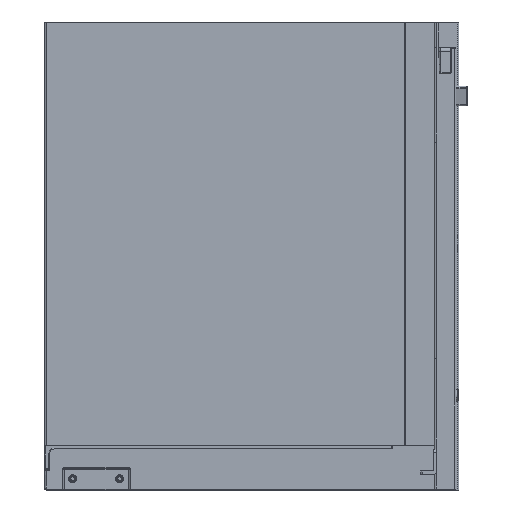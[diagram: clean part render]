
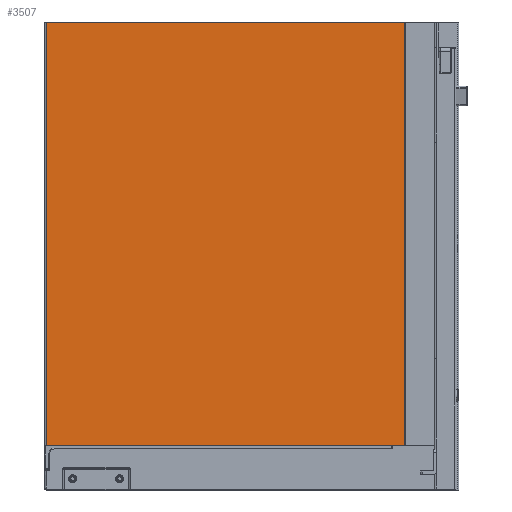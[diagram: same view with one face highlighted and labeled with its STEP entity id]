
A CAD part, left-side view. The second image highlights one B-rep face of the part: STEP entity #3507.
In plain terms, the highlighted planar face has unit normal (-1, 0, 0).
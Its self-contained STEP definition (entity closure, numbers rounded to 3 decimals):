
#88 = VERTEX_POINT ( 'NONE', #1956 ) ;
#271 = LINE ( 'NONE', #7718, #687 ) ;
#646 = VECTOR ( 'NONE', #7540, 1000. ) ;
#687 = VECTOR ( 'NONE', #7647, 1000. ) ;
#927 = VECTOR ( 'NONE', #4239, 1000. ) ;
#1225 = LINE ( 'NONE', #8253, #927 ) ;
#1454 = VERTEX_POINT ( 'NONE', #3242 ) ;
#1839 = LINE ( 'NONE', #8329, #646 ) ;
#1956 = CARTESIAN_POINT ( 'NONE',  ( 5.7, 205.8, 0. ) ) ;
#2207 = EDGE_LOOP ( 'NONE', ( #2776, #4439, #3569, #10670 ) ) ;
#2776 = ORIENTED_EDGE ( 'NONE', *, *, #5045, .T. ) ;
#2868 = VECTOR ( 'NONE', #10286, 1000. ) ;
#3242 = CARTESIAN_POINT ( 'NONE',  ( 5.7, 205.8, -243.5 ) ) ;
#3507 = ADVANCED_FACE ( 'NONE', ( #4442 ), #9278, .T. ) ;
#3569 = ORIENTED_EDGE ( 'NONE', *, *, #5064, .F. ) ;
#4239 = DIRECTION ( 'NONE',  ( 0., 0., 1. ) ) ;
#4439 = ORIENTED_EDGE ( 'NONE', *, *, #5034, .F. ) ;
#4442 = FACE_OUTER_BOUND ( 'NONE', #2207, .T. ) ;
#5034 = EDGE_CURVE ( 'NONE', #1454, #88, #1225, .T. ) ;
#5045 = EDGE_CURVE ( 'NONE', #10297, #88, #11578, .T. ) ;
#5064 = EDGE_CURVE ( 'NONE', #7852, #1454, #271, .T. ) ;
#5065 = EDGE_CURVE ( 'NONE', #7852, #10297, #1839, .T. ) ;
#6456 = AXIS2_PLACEMENT_3D ( 'NONE', #9165, #9365, #9367 ) ;
#7540 = DIRECTION ( 'NONE',  ( 0., 0., 1. ) ) ;
#7647 = DIRECTION ( 'NONE',  ( 0., 1., 0. ) ) ;
#7718 = CARTESIAN_POINT ( 'NONE',  ( 5.7, 0., -243.5 ) ) ;
#7852 = VERTEX_POINT ( 'NONE', #10239 ) ;
#7915 = CARTESIAN_POINT ( 'NONE',  ( 5.7, 0., 0. ) ) ;
#8253 = CARTESIAN_POINT ( 'NONE',  ( 5.7, 205.8, -562.455 ) ) ;
#8329 = CARTESIAN_POINT ( 'NONE',  ( 5.7, 0., -562.455 ) ) ;
#9165 = CARTESIAN_POINT ( 'NONE',  ( 5.7, 0., -562.455 ) ) ;
#9278 = PLANE ( 'NONE',  #6456 ) ;
#9365 = DIRECTION ( 'NONE',  ( -1., 0., 0. ) ) ;
#9367 = DIRECTION ( 'NONE',  ( 0., 0., 1. ) ) ;
#10179 = CARTESIAN_POINT ( 'NONE',  ( 5.7, 0., 0. ) ) ;
#10239 = CARTESIAN_POINT ( 'NONE',  ( 5.7, 0., -243.5 ) ) ;
#10286 = DIRECTION ( 'NONE',  ( 0., 1., 0. ) ) ;
#10297 = VERTEX_POINT ( 'NONE', #7915 ) ;
#10670 = ORIENTED_EDGE ( 'NONE', *, *, #5065, .T. ) ;
#11578 = LINE ( 'NONE', #10179, #2868 ) ;
